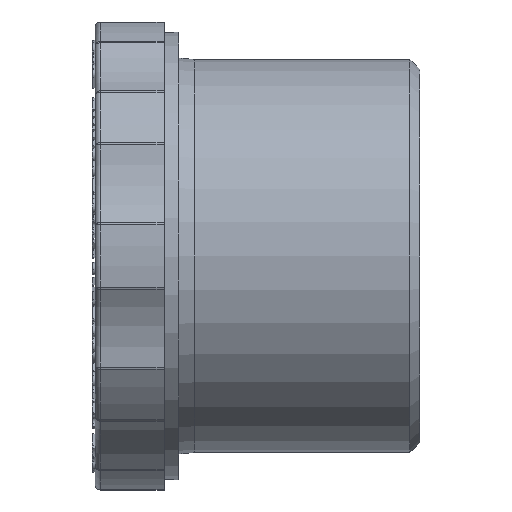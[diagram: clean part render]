
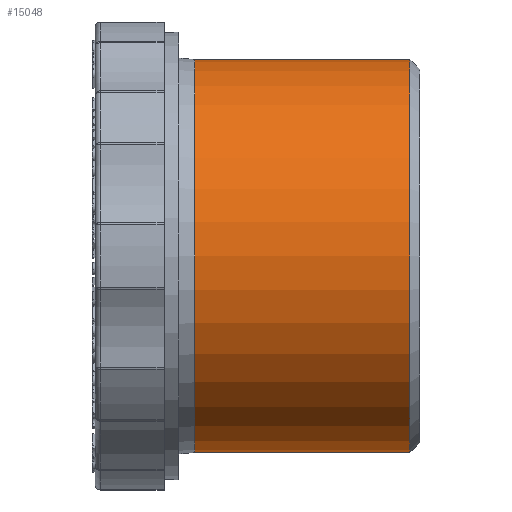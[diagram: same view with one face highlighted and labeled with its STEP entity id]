
A CAD part, left-side view. The second image highlights one B-rep face of the part: STEP entity #15048.
In plain terms, the highlighted cylindrical face has radius 20 mm (diameter 40 mm), a full revolution.
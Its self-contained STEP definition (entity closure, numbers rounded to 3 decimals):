
#50=FACE_BOUND('',#1898,.T.);
#1014=FACE_OUTER_BOUND('',#1897,.T.);
#1897=EDGE_LOOP('',(#10606));
#1898=EDGE_LOOP('',(#10607));
#2893=CIRCLE('',#16036,20.);
#2894=CIRCLE('',#16039,20.);
#6561=VERTEX_POINT('',#20950);
#6562=VERTEX_POINT('',#20954);
#8146=EDGE_CURVE('',#6561,#6561,#2893,.T.);
#8147=EDGE_CURVE('',#6562,#6562,#2894,.T.);
#10606=ORIENTED_EDGE('',*,*,#8147,.F.);
#10607=ORIENTED_EDGE('',*,*,#8146,.F.);
#14928=CYLINDRICAL_SURFACE('',#16038,20.);
#15048=ADVANCED_FACE('',(#1014,#50),#14928,.T.);
#16036=AXIS2_PLACEMENT_3D('',#20951,#17238,#17239);
#16038=AXIS2_PLACEMENT_3D('',#20953,#17242,#17243);
#16039=AXIS2_PLACEMENT_3D('',#20955,#17244,#17245);
#17238=DIRECTION('center_axis',(0.,-1.,0.));
#17239=DIRECTION('ref_axis',(1.,0.,0.));
#17242=DIRECTION('center_axis',(0.,1.,0.));
#17243=DIRECTION('ref_axis',(-1.,0.,0.));
#17244=DIRECTION('center_axis',(0.,1.,0.));
#17245=DIRECTION('ref_axis',(-1.,0.,0.));
#20950=CARTESIAN_POINT('',(-20.,-32.,0.));
#20951=CARTESIAN_POINT('Origin',(0.,-32.,0.));
#20953=CARTESIAN_POINT('Origin',(0.,-21.55,0.));
#20954=CARTESIAN_POINT('',(-20.,-10.1,0.));
#20955=CARTESIAN_POINT('Origin',(0.,-10.1,0.));
